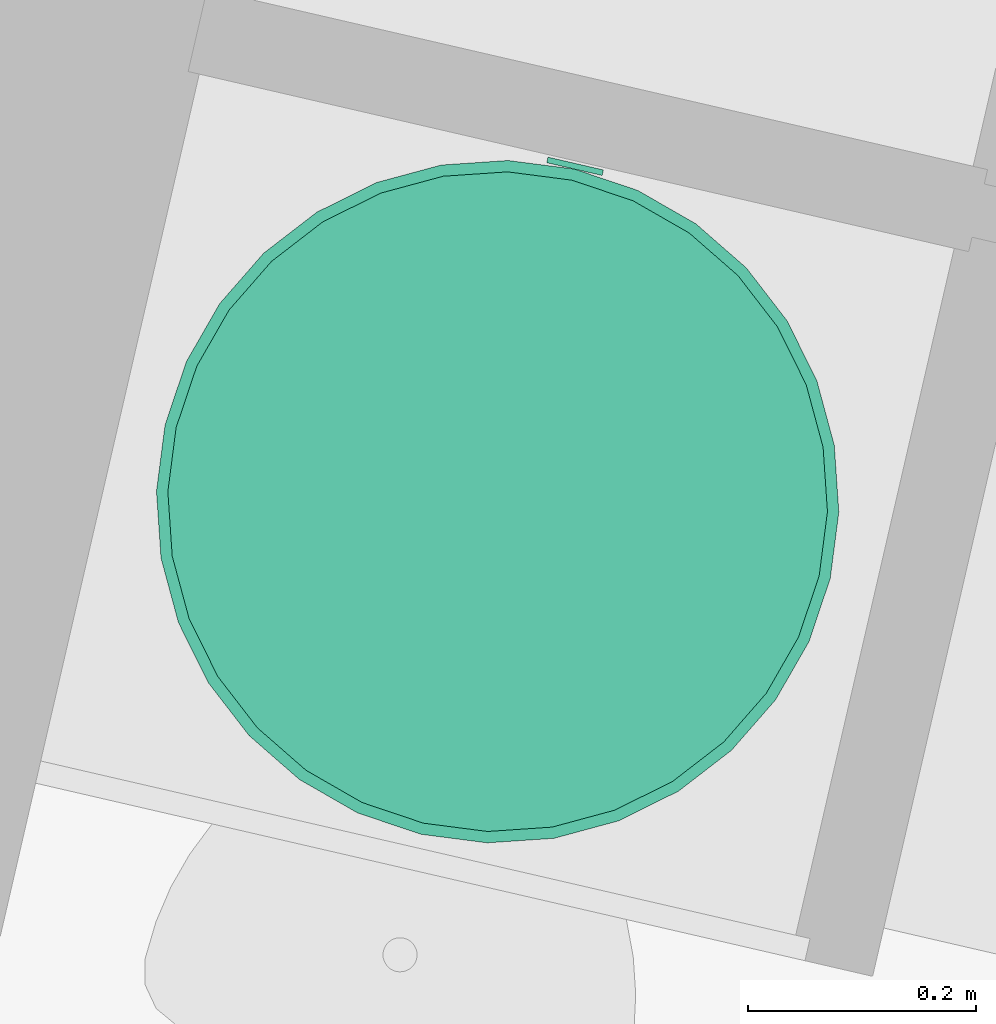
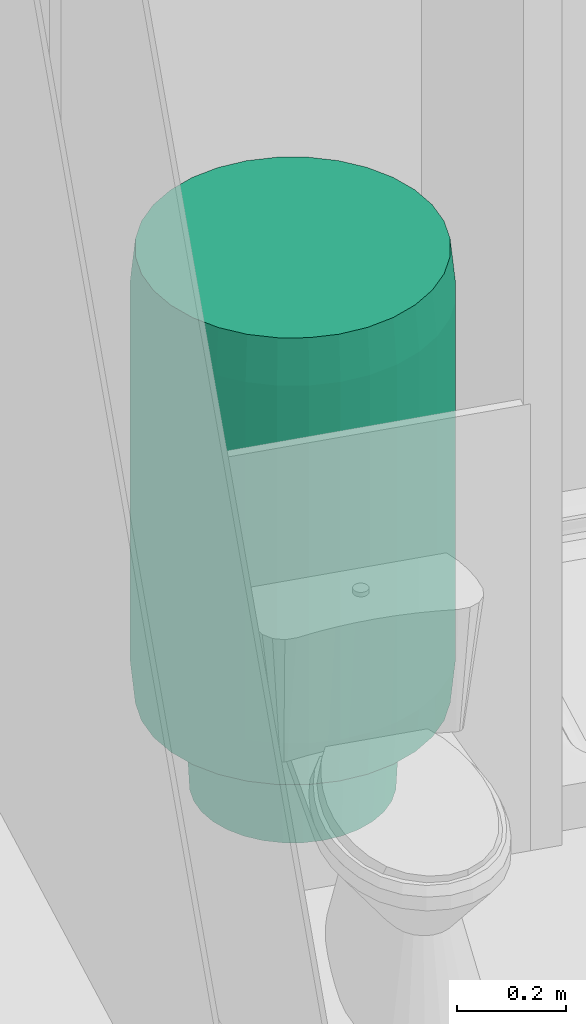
# One storey, part 74 of 90: 1 energy conversion device.
"""IFC2X3 building model written with IfcOpenShell, lengths in metres."""

from ifc_helpers import new_model, entity, si_unit, converted_unit, derived_unit, money_unit, direction, frame, origin_with_axes, place, context, subcontext, project, spatial, open_shell, faceted_brep, surface_model, source, transform, mapped, type_object, element, save


model = new_model("IFC2X3")

# Units and contexts
model_context = context("Model", 3, precision=1e-05, world=origin_with_axes(), true_north=direction((0.0, 1.0)))
body_context = subcontext(model_context, "Body", "Model", "MODEL_VIEW")
ifc_project = project(units=[si_unit("LENGTHUNIT", "METRE"), si_unit("AREAUNIT", "SQUARE_METRE"), si_unit("VOLUMEUNIT", "CUBIC_METRE"), converted_unit("PLANEANGLEUNIT", "DEGREE", entity("IfcPlaneAngleMeasure", 0.0174532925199), si_unit("PLANEANGLEUNIT", "RADIAN"), dimensions=[0, 0, 0, 0, 0, 0, 0]), si_unit("SOLIDANGLEUNIT", "STERADIAN"), money_unit("EUR"), converted_unit("TIMEUNIT", "Year", entity("IfcTimeMeasure", 31556926.0), si_unit("TIMEUNIT", "SECOND"), dimensions=[0, 0, 1, 0, 0, 0, 0]), si_unit("MASSUNIT", "GRAM", prefix="KILO"), si_unit("THERMODYNAMICTEMPERATUREUNIT", "DEGREE_CELSIUS"), si_unit("LUMINOUSINTENSITYUNIT", "LUMEN"), si_unit("ENERGYUNIT", "JOULE", prefix="MEGA"), derived_unit("THERMALCONDUCTANCEUNIT", [(si_unit("POWERUNIT", "WATT"), 1), (si_unit("LENGTHUNIT", "METRE"), -1), (si_unit("THERMODYNAMICTEMPERATUREUNIT", "KELVIN"), -1)]), derived_unit("SPECIFICHEATCAPACITYUNIT", [(si_unit("ENERGYUNIT", "JOULE"), 1), (si_unit("MASSUNIT", "GRAM", prefix="KILO"), -1), (si_unit("THERMODYNAMICTEMPERATUREUNIT", "KELVIN"), -1)]), derived_unit("MASSDENSITYUNIT", [(si_unit("MASSUNIT", "GRAM", prefix="KILO"), 1), (si_unit("VOLUMEUNIT", "CUBIC_METRE"), -1)])], contexts=[model_context])

# Site, building, storey
site_placement = place(None, origin_with_axes())
site = spatial("IfcSite", under=ifc_project, at=site_placement, Name="Site", CompositionType="ELEMENT")
building_placement = place(site_placement, origin_with_axes())
building = spatial("IfcBuilding", under=site, at=building_placement, Name="Bâtiment", CompositionType="ELEMENT")
storey_placement = place(building_placement, frame((0.0, 0.0, 2.72), z_axis=(0.0, 0.0, 1.0), x_axis=(1.0, 0.0, 0.0)))
storey = spatial("IfcBuildingStorey", under=building, at=storey_placement, Name="R+1", CompositionType="ELEMENT", Elevation=2.72)

# Energy conversion device
heat_exchanger_type = type_object("IfcHeatExchangerType", Name="Chauffe-eau électrique 23", PredefinedType="SHELLANDTUBE")
shared_shape = source(origin_with_axes(), body_context, "Body", "SurfaceModel", [
    surface_model("IfcShellBasedSurfaceModel", [(-0.245, -0.0135, 0.2), (-0.245, -0.0135, 0.18), (-0.241505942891, -0.0130399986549, 0.18), (-0.241505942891, -0.0130399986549, 0.2), (-0.248494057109, -0.0130399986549, 0.2), (-0.248494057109, -0.0130399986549, 0.18), (-0.23825, -0.0116913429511, 0.18), (-0.23825, -0.0116913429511, 0.2), (-0.25175, -0.0116913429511, 0.2), (-0.25175, -0.0116913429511, 0.18), (-0.235454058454, -0.00954594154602, 0.18), (-0.235454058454, -0.00954594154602, 0.2), (-0.254545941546, -0.00954594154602, 0.2), (-0.254545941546, -0.00954594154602, 0.18), (-0.233308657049, -0.00675, 0.18), (-0.233308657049, -0.00675, 0.2), (-0.256691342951, -0.00675, 0.2), (-0.256691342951, -0.00675, 0.18), (-0.231960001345, -0.00349405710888, 0.18), (-0.231960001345, -0.00349405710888, 0.2), (-0.258039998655, -0.00349405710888, 0.2), (-0.258039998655, -0.00349405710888, 0.18), (-0.2315, 0.0, 0.18), (-0.2315, 0.0, 0.2), (-0.2585, 0.0, 0.2), (-0.2585, 0.0, 0.18), (-0.231960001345, 0.00349405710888, 0.18), (-0.231960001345, 0.00349405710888, 0.2), (-0.258039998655, 0.00349405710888, 0.2), (-0.258039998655, 0.00349405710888, 0.18), (-0.233308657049, 0.00675, 0.18), (-0.233308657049, 0.00675, 0.2), (-0.256691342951, 0.00675, 0.2), (-0.256691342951, 0.00675, 0.18), (-0.235454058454, 0.00954594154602, 0.18), (-0.235454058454, 0.00954594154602, 0.2), (-0.254545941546, 0.00954594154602, 0.2), (-0.254545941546, 0.00954594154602, 0.18), (-0.23825, 0.0116913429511, 0.18), (-0.23825, 0.0116913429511, 0.2), (-0.25175, 0.0116913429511, 0.2), (-0.25175, 0.0116913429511, 0.18), (-0.241505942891, 0.0130399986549, 0.18), (-0.241505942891, 0.0130399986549, 0.2), (-0.248494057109, 0.0130399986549, 0.2), (-0.248494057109, 0.0130399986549, 0.18), (-0.245, 0.0135, 0.18), (-0.245, 0.0135, 0.2)], [open_shell([[[0, 1, 2, 3]], [[4, 5, 1, 0]], [[3, 2, 6, 7]], [[8, 9, 5, 4]], [[7, 6, 10, 11]], [[12, 13, 9, 8]], [[11, 10, 14, 15]], [[16, 17, 13, 12]], [[15, 14, 18, 19]], [[20, 21, 17, 16]], [[19, 18, 22, 23]], [[24, 25, 21, 20]], [[23, 22, 26, 27]], [[28, 29, 25, 24]], [[27, 26, 30, 31]], [[32, 33, 29, 28]], [[31, 30, 34, 35]], [[36, 37, 33, 32]], [[35, 34, 38, 39]], [[40, 41, 37, 36]], [[39, 38, 42, 43]], [[44, 45, 41, 40]], [[43, 42, 46, 47]], [[47, 46, 45, 44]]])]),
    surface_model("IfcShellBasedSurfaceModel", [(0.245, -0.0135, 0.2), (0.245, -0.0135, 0.18), (0.248494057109, -0.0130399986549, 0.18), (0.248494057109, -0.0130399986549, 0.2), (0.241505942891, -0.0130399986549, 0.2), (0.241505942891, -0.0130399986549, 0.18), (0.25175, -0.0116913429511, 0.18), (0.25175, -0.0116913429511, 0.2), (0.23825, -0.0116913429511, 0.2), (0.23825, -0.0116913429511, 0.18), (0.254545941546, -0.00954594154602, 0.18), (0.254545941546, -0.00954594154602, 0.2), (0.235454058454, -0.00954594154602, 0.2), (0.235454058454, -0.00954594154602, 0.18), (0.256691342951, -0.00675, 0.18), (0.256691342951, -0.00675, 0.2), (0.233308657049, -0.00675, 0.2), (0.233308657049, -0.00675, 0.18), (0.258039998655, -0.00349405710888, 0.18), (0.258039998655, -0.00349405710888, 0.2), (0.231960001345, -0.00349405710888, 0.2), (0.231960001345, -0.00349405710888, 0.18), (0.2585, 0.0, 0.18), (0.2585, 0.0, 0.2), (0.2315, 0.0, 0.2), (0.2315, 0.0, 0.18), (0.258039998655, 0.00349405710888, 0.18), (0.258039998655, 0.00349405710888, 0.2), (0.231960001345, 0.00349405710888, 0.2), (0.231960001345, 0.00349405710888, 0.18), (0.256691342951, 0.00675, 0.18), (0.256691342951, 0.00675, 0.2), (0.233308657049, 0.00675, 0.2), (0.233308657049, 0.00675, 0.18), (0.254545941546, 0.00954594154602, 0.18), (0.254545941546, 0.00954594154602, 0.2), (0.235454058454, 0.00954594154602, 0.2), (0.235454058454, 0.00954594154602, 0.18), (0.25175, 0.0116913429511, 0.18), (0.25175, 0.0116913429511, 0.2), (0.23825, 0.0116913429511, 0.2), (0.23825, 0.0116913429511, 0.18), (0.248494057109, 0.0130399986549, 0.18), (0.248494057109, 0.0130399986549, 0.2), (0.241505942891, 0.0130399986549, 0.2), (0.241505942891, 0.0130399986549, 0.18), (0.245, 0.0135, 0.18), (0.245, 0.0135, 0.2)], [open_shell([[[0, 1, 2, 3]], [[4, 5, 1, 0]], [[3, 2, 6, 7]], [[8, 9, 5, 4]], [[7, 6, 10, 11]], [[12, 13, 9, 8]], [[11, 10, 14, 15]], [[16, 17, 13, 12]], [[15, 14, 18, 19]], [[20, 21, 17, 16]], [[19, 18, 22, 23]], [[24, 25, 21, 20]], [[23, 22, 26, 27]], [[28, 29, 25, 24]], [[27, 26, 30, 31]], [[32, 33, 29, 28]], [[31, 30, 34, 35]], [[36, 37, 33, 32]], [[35, 34, 38, 39]], [[40, 41, 37, 36]], [[39, 38, 42, 43]], [[44, 45, 41, 40]], [[43, 42, 46, 47]], [[47, 46, 45, 44]]])]),
    faceted_brep([(-0.025, -0.305, 0.4), (-0.025, -0.3, 0.4), (0.025, -0.3, 0.4), (0.025, -0.305, 0.4), (-0.025, -0.305, 0.42), (-0.025, -0.3, 0.42), (0.025, -0.3, 0.42), (0.025, -0.305, 0.42)], [[[0, 1, 2, 3]], [[0, 4, 5, 1]], [[1, 5, 6, 2]], [[2, 6, 7, 3]], [[3, 7, 4, 0]], [[7, 6, 5, 4]]]),
    faceted_brep([(0.0222836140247, -0.16, 0.088519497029), (0.02, -0.16, 0.1), (0.0222836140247, -0.16, 0.111480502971), (0.0287867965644, -0.16, 0.121213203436), (0.038519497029, -0.16, 0.127716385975), (0.05, -0.16, 0.13), (0.061480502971, -0.16, 0.127716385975), (0.0712132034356, -0.16, 0.121213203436), (0.0777163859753, -0.16, 0.111480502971), (0.08, -0.16, 0.1), (0.0777163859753, -0.16, 0.088519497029), (0.0712132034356, -0.16, 0.0787867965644), (0.061480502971, -0.16, 0.0722836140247), (0.05, -0.16, 0.07), (0.038519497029, -0.16, 0.0722836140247), (0.0287867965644, -0.16, 0.0787867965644), (0.0222836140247, -0.175, 0.088519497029), (0.02, -0.175, 0.1), (0.0222836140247, -0.175, 0.111480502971), (0.0287867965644, -0.175, 0.121213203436), (0.038519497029, -0.175, 0.127716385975), (0.05, -0.175, 0.13), (0.061480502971, -0.175, 0.127716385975), (0.0712132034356, -0.175, 0.121213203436), (0.0777163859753, -0.175, 0.111480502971), (0.08, -0.175, 0.1), (0.0777163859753, -0.175, 0.088519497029), (0.0712132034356, -0.175, 0.0787867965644), (0.061480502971, -0.175, 0.0722836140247), (0.05, -0.175, 0.07), (0.038519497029, -0.175, 0.0722836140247), (0.0287867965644, -0.175, 0.0787867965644)], [[[0, 1, 2, 3, 4, 5, 6, 7, 8, 9, 10, 11, 12, 13, 14, 15]], [[0, 16, 17, 1]], [[1, 17, 18, 2]], [[2, 18, 19, 3]], [[3, 19, 20, 4]], [[4, 20, 21, 5]], [[5, 21, 22, 6]], [[6, 22, 23, 7]], [[7, 23, 24, 8]], [[8, 24, 25, 9]], [[9, 25, 26, 10]], [[10, 26, 27, 11]], [[11, 27, 28, 12]], [[12, 28, 29, 13]], [[13, 29, 30, 14]], [[14, 30, 31, 15]], [[15, 31, 16, 0]], [[16, 31, 30, 29, 28, 27, 26, 25, 24, 23, 22, 21, 20, 19, 18, 17]]]),
    faceted_brep([(-0.0777163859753, -0.16, 0.088519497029), (-0.08, -0.16, 0.1), (-0.0777163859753, -0.16, 0.111480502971), (-0.0712132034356, -0.16, 0.121213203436), (-0.061480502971, -0.16, 0.127716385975), (-0.05, -0.16, 0.13), (-0.038519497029, -0.16, 0.127716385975), (-0.0287867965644, -0.16, 0.121213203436), (-0.0222836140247, -0.16, 0.111480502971), (-0.02, -0.16, 0.1), (-0.0222836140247, -0.16, 0.088519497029), (-0.0287867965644, -0.16, 0.0787867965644), (-0.038519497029, -0.16, 0.0722836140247), (-0.05, -0.16, 0.07), (-0.061480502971, -0.16, 0.0722836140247), (-0.0712132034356, -0.16, 0.0787867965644), (-0.0777163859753, -0.175, 0.088519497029), (-0.08, -0.175, 0.1), (-0.0777163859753, -0.175, 0.111480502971), (-0.0712132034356, -0.175, 0.121213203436), (-0.061480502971, -0.175, 0.127716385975), (-0.05, -0.175, 0.13), (-0.038519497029, -0.175, 0.127716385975), (-0.0287867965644, -0.175, 0.121213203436), (-0.0222836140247, -0.175, 0.111480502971), (-0.02, -0.175, 0.1), (-0.0222836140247, -0.175, 0.088519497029), (-0.0287867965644, -0.175, 0.0787867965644), (-0.038519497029, -0.175, 0.0722836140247), (-0.05, -0.175, 0.07), (-0.061480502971, -0.175, 0.0722836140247), (-0.0712132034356, -0.175, 0.0787867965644)], [[[0, 1, 2, 3, 4, 5, 6, 7, 8, 9, 10, 11, 12, 13, 14, 15]], [[0, 16, 17, 1]], [[1, 17, 18, 2]], [[2, 18, 19, 3]], [[3, 19, 20, 4]], [[4, 20, 21, 5]], [[5, 21, 22, 6]], [[6, 22, 23, 7]], [[7, 23, 24, 8]], [[8, 24, 25, 9]], [[9, 25, 26, 10]], [[10, 26, 27, 11]], [[11, 27, 28, 12]], [[12, 28, 29, 13]], [[13, 29, 30, 14]], [[14, 30, 31, 15]], [[15, 31, 16, 0]], [[16, 31, 30, 29, 28, 27, 26, 25, 24, 23, 22, 21, 20, 19, 18, 17]]]),
    faceted_brep([(-0.186349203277, -0.0370671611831, 0.0), (-0.196157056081, -0.0390180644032, 0.2), (-0.2, 0.0, 0.2), (-0.19, 0.0, 0.0), (-0.175537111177, -0.0727098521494, 0.0), (-0.184775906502, -0.076536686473, 0.2), (-0.166293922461, -0.111114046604, 0.2), (-0.141421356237, -0.141421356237, 0.2), (-0.118783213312, -0.16, 0.2), (0.118783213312, -0.16, 0.2), (0.141421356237, -0.141421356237, 0.2), (0.166293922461, -0.111114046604, 0.2), (0.184775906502, -0.076536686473, 0.2), (0.196157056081, -0.0390180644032, 0.2), (0.2, 0.0, 0.2), (0.196157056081, 0.0390180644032, 0.2), (0.184775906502, 0.076536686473, 0.2), (0.166293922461, 0.111114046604, 0.2), (0.141421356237, 0.141421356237, 0.2), (0.111114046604, 0.166293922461, 0.2), (0.076536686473, 0.184775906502, 0.2), (0.0390180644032, 0.196157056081, 0.2), (0.0, 0.2, 0.2), (-0.0390180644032, 0.196157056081, 0.2), (-0.076536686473, 0.184775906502, 0.2), (-0.111114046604, 0.166293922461, 0.2), (-0.141421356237, 0.141421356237, 0.2), (-0.166293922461, 0.111114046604, 0.2), (-0.184775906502, 0.076536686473, 0.2), (-0.196157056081, 0.0390180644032, 0.2), (-0.186349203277, 0.0370671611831, 0.0), (-0.175537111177, 0.0727098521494, 0.0), (-0.157979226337, 0.105558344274, 0.0), (-0.134350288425, 0.134350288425, 0.0), (-0.105558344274, 0.157979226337, 0.0), (-0.0727098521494, 0.175537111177, 0.0), (-0.0370671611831, 0.186349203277, 0.0), (0.0, 0.19, 0.0), (0.0370671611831, 0.186349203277, 0.0), (0.0727098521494, 0.175537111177, 0.0), (0.105558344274, 0.157979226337, 0.0), (0.134350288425, 0.134350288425, 0.0), (0.157979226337, 0.105558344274, 0.0), (0.175537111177, 0.0727098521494, 0.0), (0.186349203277, 0.0370671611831, 0.0), (0.19, 0.0, 0.0), (0.186349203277, -0.0370671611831, 0.0), (0.175537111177, -0.0727098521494, 0.0), (0.157979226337, -0.105558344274, 0.0), (0.134350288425, -0.134350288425, 0.0), (0.105558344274, -0.157979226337, 0.0), (0.101777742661, -0.16, 0.0), (-0.101777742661, -0.16, 0.0), (-0.105558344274, -0.157979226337, 0.0), (-0.134350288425, -0.134350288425, 0.0), (-0.157979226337, -0.105558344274, 0.0), (-0.106908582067, -0.16, 0.0486072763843), (0.106908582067, -0.16, 0.0486072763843)], [[[0, 1, 2, 3]], [[4, 5, 1, 0]], [[1, 5, 6, 7, 8, 9, 10, 11, 12, 13, 14, 15, 16, 17, 18, 19, 20, 21, 22, 23, 24, 25, 26, 27, 28, 29, 2]], [[3, 2, 29, 30]], [[0, 3, 30, 31, 32, 33, 34, 35, 36, 37, 38, 39, 40, 41, 42, 43, 44, 45, 46, 47, 48, 49, 50, 51, 52, 53, 54, 55, 4]], [[55, 6, 5, 4]], [[54, 7, 6, 55]], [[53, 56, 8, 7, 54]], [[51, 57, 9, 8, 56, 52]], [[49, 10, 9, 57, 50]], [[48, 11, 10, 49]], [[47, 12, 11, 48]], [[46, 13, 12, 47]], [[45, 14, 13, 46]], [[44, 15, 14, 45]], [[43, 16, 15, 44]], [[42, 17, 16, 43]], [[41, 18, 17, 42]], [[40, 19, 18, 41]], [[39, 20, 19, 40]], [[38, 21, 20, 39]], [[37, 22, 21, 38]], [[36, 23, 22, 37]], [[35, 24, 23, 36]], [[34, 25, 24, 35]], [[33, 26, 25, 34]], [[32, 27, 26, 33]], [[31, 28, 27, 32]], [[30, 29, 28, 31]], [[50, 57, 51]], [[52, 56, 53]]]),
    faceted_brep([(-0.284427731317, -0.0565761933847, 0.2), (-0.294235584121, -0.0585270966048, 0.3), (-0.3, 0.0, 0.3), (-0.29, 0.0, 0.2), (-0.267925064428, -0.110978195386, 0.2), (-0.277163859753, -0.11480502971, 0.3), (-0.249440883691, -0.166671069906, 0.3), (-0.212132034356, -0.212132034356, 0.3), (-0.166671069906, -0.249440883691, 0.3), (-0.11480502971, -0.277163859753, 0.3), (-0.0585270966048, -0.294235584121, 0.3), (0.0, -0.3, 0.3), (0.0585270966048, -0.294235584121, 0.3), (0.11480502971, -0.277163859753, 0.3), (0.166671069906, -0.249440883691, 0.3), (0.212132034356, -0.212132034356, 0.3), (0.249440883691, -0.166671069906, 0.3), (0.277163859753, -0.11480502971, 0.3), (0.294235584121, -0.0585270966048, 0.3), (0.3, 0.0, 0.3), (0.294235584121, 0.0585270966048, 0.3), (0.277163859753, 0.11480502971, 0.3), (0.249440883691, 0.166671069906, 0.3), (0.212132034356, 0.212132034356, 0.3), (0.166671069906, 0.249440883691, 0.3), (0.11480502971, 0.277163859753, 0.3), (0.0585270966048, 0.294235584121, 0.3), (0.0, 0.3, 0.3), (-0.0585270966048, 0.294235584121, 0.3), (-0.11480502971, 0.277163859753, 0.3), (-0.166671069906, 0.249440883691, 0.3), (-0.212132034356, 0.212132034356, 0.3), (-0.249440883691, 0.166671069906, 0.3), (-0.277163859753, 0.11480502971, 0.3), (-0.294235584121, 0.0585270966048, 0.3), (-0.284427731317, 0.0565761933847, 0.2), (-0.267925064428, 0.110978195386, 0.2), (-0.241126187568, 0.161115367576, 0.2), (-0.205060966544, 0.205060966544, 0.2), (-0.161115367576, 0.241126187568, 0.2), (-0.110978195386, 0.267925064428, 0.2), (-0.0565761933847, 0.284427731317, 0.2), (0.0, 0.29, 0.2), (0.0565761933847, 0.284427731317, 0.2), (0.110978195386, 0.267925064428, 0.2), (0.161115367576, 0.241126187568, 0.2), (0.205060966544, 0.205060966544, 0.2), (0.241126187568, 0.161115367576, 0.2), (0.267925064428, 0.110978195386, 0.2), (0.284427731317, 0.0565761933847, 0.2), (0.29, 0.0, 0.2), (0.284427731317, -0.0565761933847, 0.2), (0.267925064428, -0.110978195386, 0.2), (0.241126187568, -0.161115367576, 0.2), (0.205060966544, -0.205060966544, 0.2), (0.161115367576, -0.241126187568, 0.2), (0.110978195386, -0.267925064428, 0.2), (0.0565761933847, -0.284427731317, 0.2), (0.0, -0.29, 0.2), (-0.0565761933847, -0.284427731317, 0.2), (-0.110978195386, -0.267925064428, 0.2), (-0.161115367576, -0.241126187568, 0.2), (-0.205060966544, -0.205060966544, 0.2), (-0.241126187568, -0.161115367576, 0.2)], [[[0, 1, 2, 3]], [[4, 5, 1, 0]], [[1, 5, 6, 7, 8, 9, 10, 11, 12, 13, 14, 15, 16, 17, 18, 19, 20, 21, 22, 23, 24, 25, 26, 27, 28, 29, 30, 31, 32, 33, 34, 2]], [[3, 2, 34, 35]], [[0, 3, 35, 36, 37, 38, 39, 40, 41, 42, 43, 44, 45, 46, 47, 48, 49, 50, 51, 52, 53, 54, 55, 56, 57, 58, 59, 60, 61, 62, 63, 4]], [[63, 6, 5, 4]], [[62, 7, 6, 63]], [[61, 8, 7, 62]], [[60, 9, 8, 61]], [[59, 10, 9, 60]], [[58, 11, 10, 59]], [[57, 12, 11, 58]], [[56, 13, 12, 57]], [[55, 14, 13, 56]], [[54, 15, 14, 55]], [[53, 16, 15, 54]], [[52, 17, 16, 53]], [[51, 18, 17, 52]], [[50, 19, 18, 51]], [[49, 20, 19, 50]], [[48, 21, 20, 49]], [[47, 22, 21, 48]], [[46, 23, 22, 47]], [[45, 24, 23, 46]], [[44, 25, 24, 45]], [[43, 26, 25, 44]], [[42, 27, 26, 43]], [[41, 28, 27, 42]], [[40, 29, 28, 41]], [[39, 30, 29, 40]], [[38, 31, 30, 39]], [[37, 32, 31, 38]], [[36, 33, 32, 37]], [[35, 34, 33, 36]]]),
    faceted_brep([(-0.294235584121, -0.0585270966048, 0.3), (-0.3, 0.0, 0.3), (-0.294235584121, 0.0585270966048, 0.3), (-0.277163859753, 0.11480502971, 0.3), (-0.249440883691, 0.166671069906, 0.3), (-0.212132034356, 0.212132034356, 0.3), (-0.166671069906, 0.249440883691, 0.3), (-0.11480502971, 0.277163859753, 0.3), (-0.0585270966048, 0.294235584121, 0.3), (0.0, 0.3, 0.3), (0.0585270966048, 0.294235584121, 0.3), (0.11480502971, 0.277163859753, 0.3), (0.166671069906, 0.249440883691, 0.3), (0.212132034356, 0.212132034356, 0.3), (0.249440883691, 0.166671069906, 0.3), (0.277163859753, 0.11480502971, 0.3), (0.294235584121, 0.0585270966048, 0.3), (0.3, 0.0, 0.3), (0.294235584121, -0.0585270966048, 0.3), (0.277163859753, -0.11480502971, 0.3), (0.249440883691, -0.166671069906, 0.3), (0.212132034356, -0.212132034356, 0.3), (0.166671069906, -0.249440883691, 0.3), (0.11480502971, -0.277163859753, 0.3), (0.0585270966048, -0.294235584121, 0.3), (0.0, -0.3, 0.3), (-0.0585270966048, -0.294235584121, 0.3), (-0.11480502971, -0.277163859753, 0.3), (-0.166671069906, -0.249440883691, 0.3), (-0.212132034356, -0.212132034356, 0.3), (-0.249440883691, -0.166671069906, 0.3), (-0.277163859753, -0.11480502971, 0.3), (-0.294235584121, -0.0585270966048, 1.1), (-0.3, 0.0, 1.1), (-0.294235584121, 0.0585270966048, 1.1), (-0.277163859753, 0.11480502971, 1.1), (-0.249440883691, 0.166671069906, 1.1), (-0.212132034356, 0.212132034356, 1.1), (-0.166671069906, 0.249440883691, 1.1), (-0.11480502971, 0.277163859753, 1.1), (-0.0585270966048, 0.294235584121, 1.1), (0.0, 0.3, 1.1), (0.0585270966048, 0.294235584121, 1.1), (0.11480502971, 0.277163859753, 1.1), (0.166671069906, 0.249440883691, 1.1), (0.212132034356, 0.212132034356, 1.1), (0.249440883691, 0.166671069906, 1.1), (0.277163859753, 0.11480502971, 1.1), (0.294235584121, 0.0585270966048, 1.1), (0.3, 0.0, 1.1), (0.294235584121, -0.0585270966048, 1.1), (0.277163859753, -0.11480502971, 1.1), (0.249440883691, -0.166671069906, 1.1), (0.212132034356, -0.212132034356, 1.1), (0.166671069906, -0.249440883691, 1.1), (0.11480502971, -0.277163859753, 1.1), (0.0585270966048, -0.294235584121, 1.1), (0.0, -0.3, 1.1), (-0.0585270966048, -0.294235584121, 1.1), (-0.11480502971, -0.277163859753, 1.1), (-0.166671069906, -0.249440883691, 1.1), (-0.212132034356, -0.212132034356, 1.1), (-0.249440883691, -0.166671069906, 1.1), (-0.277163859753, -0.11480502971, 1.1)], [[[0, 1, 2, 3, 4, 5, 6, 7, 8, 9, 10, 11, 12, 13, 14, 15, 16, 17, 18, 19, 20, 21, 22, 23, 24, 25, 26, 27, 28, 29, 30, 31]], [[0, 32, 33, 1]], [[1, 33, 34, 2]], [[2, 34, 35, 3]], [[3, 35, 36, 4]], [[4, 36, 37, 5]], [[5, 37, 38, 6]], [[6, 38, 39, 7]], [[7, 39, 40, 8]], [[8, 40, 41, 9]], [[9, 41, 42, 10]], [[10, 42, 43, 11]], [[11, 43, 44, 12]], [[12, 44, 45, 13]], [[13, 45, 46, 14]], [[14, 46, 47, 15]], [[15, 47, 48, 16]], [[16, 48, 49, 17]], [[17, 49, 50, 18]], [[18, 50, 51, 19]], [[19, 51, 52, 20]], [[20, 52, 53, 21]], [[21, 53, 54, 22]], [[22, 54, 55, 23]], [[23, 55, 56, 24]], [[24, 56, 57, 25]], [[25, 57, 58, 26]], [[26, 58, 59, 27]], [[27, 59, 60, 28]], [[28, 60, 61, 29]], [[29, 61, 62, 30]], [[30, 62, 63, 31]], [[31, 63, 32, 0]], [[32, 63, 62, 61, 60, 59, 58, 57, 56, 55, 54, 53, 52, 51, 50, 49, 48, 47, 46, 45, 44, 43, 42, 41, 40, 39, 38, 37, 36, 35, 34, 33]]]),
    faceted_brep([(-0.294235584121, -0.0585270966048, 1.1), (-0.284427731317, -0.0565761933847, 1.2), (-0.29, 0.0, 1.2), (-0.3, 0.0, 1.1), (-0.277163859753, -0.11480502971, 1.1), (-0.267925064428, -0.110978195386, 1.2), (-0.241126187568, -0.161115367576, 1.2), (-0.205060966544, -0.205060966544, 1.2), (-0.161115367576, -0.241126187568, 1.2), (-0.110978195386, -0.267925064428, 1.2), (-0.0565761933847, -0.284427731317, 1.2), (0.0, -0.29, 1.2), (0.0565761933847, -0.284427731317, 1.2), (0.110978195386, -0.267925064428, 1.2), (0.161115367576, -0.241126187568, 1.2), (0.205060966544, -0.205060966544, 1.2), (0.241126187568, -0.161115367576, 1.2), (0.267925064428, -0.110978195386, 1.2), (0.284427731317, -0.0565761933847, 1.2), (0.29, 0.0, 1.2), (0.284427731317, 0.0565761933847, 1.2), (0.267925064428, 0.110978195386, 1.2), (0.241126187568, 0.161115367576, 1.2), (0.205060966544, 0.205060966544, 1.2), (0.161115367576, 0.241126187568, 1.2), (0.110978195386, 0.267925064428, 1.2), (0.0565761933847, 0.284427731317, 1.2), (0.0, 0.29, 1.2), (-0.0565761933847, 0.284427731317, 1.2), (-0.110978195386, 0.267925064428, 1.2), (-0.161115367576, 0.241126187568, 1.2), (-0.205060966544, 0.205060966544, 1.2), (-0.241126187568, 0.161115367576, 1.2), (-0.267925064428, 0.110978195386, 1.2), (-0.284427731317, 0.0565761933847, 1.2), (-0.294235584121, 0.0585270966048, 1.1), (-0.277163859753, 0.11480502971, 1.1), (-0.249440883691, 0.166671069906, 1.1), (-0.212132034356, 0.212132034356, 1.1), (-0.166671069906, 0.249440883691, 1.1), (-0.11480502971, 0.277163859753, 1.1), (-0.0585270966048, 0.294235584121, 1.1), (0.0, 0.3, 1.1), (0.0585270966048, 0.294235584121, 1.1), (0.11480502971, 0.277163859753, 1.1), (0.166671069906, 0.249440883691, 1.1), (0.212132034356, 0.212132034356, 1.1), (0.249440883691, 0.166671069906, 1.1), (0.277163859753, 0.11480502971, 1.1), (0.294235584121, 0.0585270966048, 1.1), (0.3, 0.0, 1.1), (0.294235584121, -0.0585270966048, 1.1), (0.277163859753, -0.11480502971, 1.1), (0.249440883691, -0.166671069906, 1.1), (0.212132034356, -0.212132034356, 1.1), (0.166671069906, -0.249440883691, 1.1), (0.11480502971, -0.277163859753, 1.1), (0.0585270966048, -0.294235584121, 1.1), (0.0, -0.3, 1.1), (-0.0585270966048, -0.294235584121, 1.1), (-0.11480502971, -0.277163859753, 1.1), (-0.166671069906, -0.249440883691, 1.1), (-0.212132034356, -0.212132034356, 1.1), (-0.249440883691, -0.166671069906, 1.1)], [[[0, 1, 2, 3]], [[4, 5, 1, 0]], [[1, 5, 6, 7, 8, 9, 10, 11, 12, 13, 14, 15, 16, 17, 18, 19, 20, 21, 22, 23, 24, 25, 26, 27, 28, 29, 30, 31, 32, 33, 34, 2]], [[3, 2, 34, 35]], [[0, 3, 35, 36, 37, 38, 39, 40, 41, 42, 43, 44, 45, 46, 47, 48, 49, 50, 51, 52, 53, 54, 55, 56, 57, 58, 59, 60, 61, 62, 63, 4]], [[63, 6, 5, 4]], [[62, 7, 6, 63]], [[61, 8, 7, 62]], [[60, 9, 8, 61]], [[59, 10, 9, 60]], [[58, 11, 10, 59]], [[57, 12, 11, 58]], [[56, 13, 12, 57]], [[55, 14, 13, 56]], [[54, 15, 14, 55]], [[53, 16, 15, 54]], [[52, 17, 16, 53]], [[51, 18, 17, 52]], [[50, 19, 18, 51]], [[49, 20, 19, 50]], [[48, 21, 20, 49]], [[47, 22, 21, 48]], [[46, 23, 22, 47]], [[45, 24, 23, 46]], [[44, 25, 24, 45]], [[43, 26, 25, 44]], [[42, 27, 26, 43]], [[41, 28, 27, 42]], [[40, 29, 28, 41]], [[39, 30, 29, 40]], [[38, 31, 30, 39]], [[37, 32, 31, 38]], [[36, 33, 32, 37]], [[35, 34, 33, 36]]]),
])
energy_conversion_device_placement = place(storey_placement, frame((-11.1628814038, -9.73811715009, 0.0), z_axis=(0.0, 0.0, 1.0), x_axis=(-0.97438734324, 0.224876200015, 0.0)))
element("IfcEnergyConversionDevice", 1, at=energy_conversion_device_placement, inside=storey, type_object=heat_exchanger_type, Name="MOB-002", context=body_context, shape_type="MappedRepresentation", body=[
    mapped(shared_shape, transform((0.0, 0.0, 0.0))),
])

save(model, "model.ifc")
